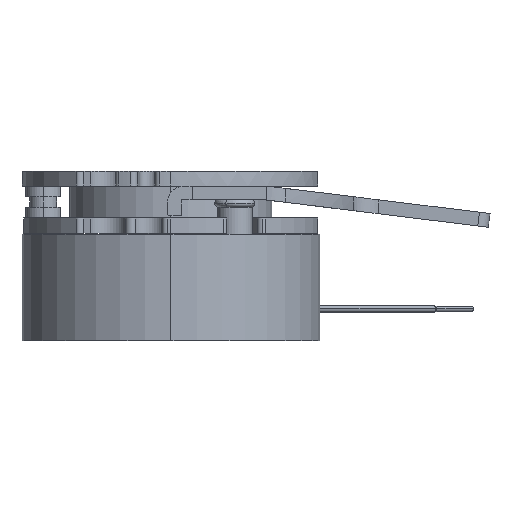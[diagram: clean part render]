
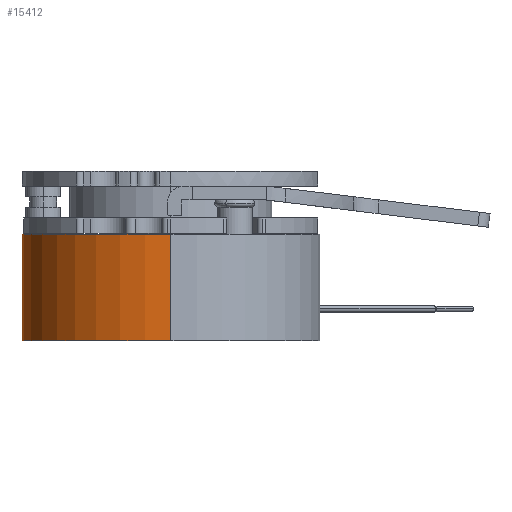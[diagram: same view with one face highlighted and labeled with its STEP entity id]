
A CAD part, left-side view. The second image highlights one B-rep face of the part: STEP entity #15412.
In plain terms, the highlighted cylindrical face has radius 28 mm (diameter 56 mm), a partial arc.
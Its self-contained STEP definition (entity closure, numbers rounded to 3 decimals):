
#82 = CARTESIAN_POINT ( 'NONE',  ( 0., 0., 0. ) ) ;
#83 = DIRECTION ( 'NONE',  ( 0., 0., 1. ) ) ;
#84 = DIRECTION ( 'NONE',  ( 1., 0., 0. ) ) ;
#107 = CARTESIAN_POINT ( 'NONE',  ( 0., 0., 20. ) ) ;
#108 = DIRECTION ( 'NONE',  ( 0., 0., 1. ) ) ;
#109 = DIRECTION ( 'NONE',  ( 1., 0., 0. ) ) ;
#171 = EDGE_CURVE ( 'NONE', #12193, #12194, #1829, .T. ) ;
#176 = EDGE_CURVE ( 'NONE', #12187, #12188, #1837, .T. ) ;
#1829 = CIRCLE ( 'NONE', #12305, 28. ) ;
#1837 = CIRCLE ( 'NONE', #12307, 28. ) ;
#2500 = EDGE_CURVE ( 'NONE', #12188, #12194, #2914, .T. ) ;
#2520 = EDGE_CURVE ( 'NONE', #12187, #12193, #2945, .T. ) ;
#2914 = LINE ( 'NONE', #4034, #2917 ) ;
#2917 = VECTOR ( 'NONE', #4029, 1000. ) ;
#2945 = LINE ( 'NONE', #4085, #2948 ) ;
#2948 = VECTOR ( 'NONE', #4086, 1000. ) ;
#4029 = DIRECTION ( 'NONE',  ( 0., 0., -1. ) ) ;
#4034 = CARTESIAN_POINT ( 'NONE',  ( -28., 0., 20. ) ) ;
#4085 = CARTESIAN_POINT ( 'NONE',  ( 28., 0., 20. ) ) ;
#4086 = DIRECTION ( 'NONE',  ( 0., 0., -1. ) ) ;
#4338 = CARTESIAN_POINT ( 'NONE',  ( 28., 0., 20. ) ) ;
#4339 = CARTESIAN_POINT ( 'NONE',  ( -28., 0., 20. ) ) ;
#4344 = CARTESIAN_POINT ( 'NONE',  ( 28., 0., 0. ) ) ;
#4345 = CARTESIAN_POINT ( 'NONE',  ( -28., 0., 0. ) ) ;
#8791 = AXIS2_PLACEMENT_3D ( 'NONE', #9426, #9427, #9435 ) ;
#9426 = CARTESIAN_POINT ( 'NONE',  ( 0., 0., 20. ) ) ;
#9427 = DIRECTION ( 'NONE',  ( 0., 0., -1. ) ) ;
#9435 = DIRECTION ( 'NONE',  ( -1., 0., 0. ) ) ;
#9775 = FACE_OUTER_BOUND ( 'NONE', #10993, .T. ) ;
#9783 = CYLINDRICAL_SURFACE ( 'NONE', #8791, 28. ) ;
#10993 = EDGE_LOOP ( 'NONE', ( #11951, #11952, #11953, #11954 ) ) ;
#11951 = ORIENTED_EDGE ( 'NONE', *, *, #176, .F. ) ;
#11952 = ORIENTED_EDGE ( 'NONE', *, *, #2520, .T. ) ;
#11953 = ORIENTED_EDGE ( 'NONE', *, *, #171, .T. ) ;
#11954 = ORIENTED_EDGE ( 'NONE', *, *, #2500, .F. ) ;
#12187 = VERTEX_POINT ( 'NONE', #4338 ) ;
#12188 = VERTEX_POINT ( 'NONE', #4339 ) ;
#12193 = VERTEX_POINT ( 'NONE', #4344 ) ;
#12194 = VERTEX_POINT ( 'NONE', #4345 ) ;
#12305 = AXIS2_PLACEMENT_3D ( 'NONE', #82, #83, #84 ) ;
#12307 = AXIS2_PLACEMENT_3D ( 'NONE', #107, #108, #109 ) ;
#15412 = ADVANCED_FACE ( 'NONE', ( #9775 ), #9783, .T. ) ;
